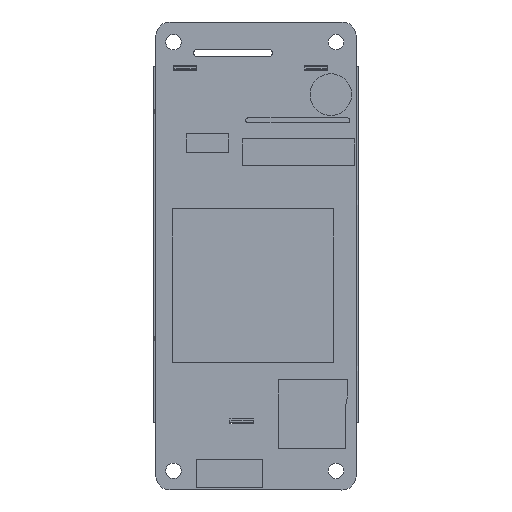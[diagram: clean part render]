
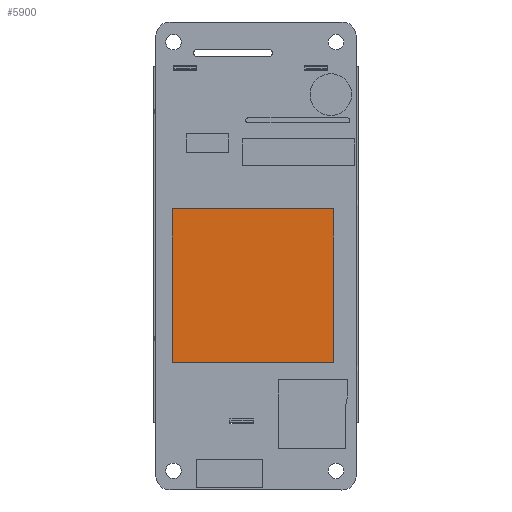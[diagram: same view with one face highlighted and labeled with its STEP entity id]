
A CAD part, front view. The second image highlights one B-rep face of the part: STEP entity #5900.
In plain terms, the highlighted planar face has unit normal (0, -1, 0).
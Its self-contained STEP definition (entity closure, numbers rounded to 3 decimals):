
#1778=DIRECTION('',(0.,0.,1.));
#1779=VECTOR('',#1778,32.766);
#1780=CARTESIAN_POINT('',(-17.849,-10.1,-25.061));
#1781=LINE('',#1780,#1779);
#1782=DIRECTION('',(1.,0.,0.));
#1783=VECTOR('',#1782,34.417);
#1784=CARTESIAN_POINT('',(-17.849,-10.1,7.705));
#1785=LINE('',#1784,#1783);
#1786=DIRECTION('',(0.,0.,-1.));
#1787=VECTOR('',#1786,32.766);
#1788=CARTESIAN_POINT('',(16.568,-10.1,7.705));
#1789=LINE('',#1788,#1787);
#1790=DIRECTION('',(-1.,0.,0.));
#1791=VECTOR('',#1790,34.417);
#1792=CARTESIAN_POINT('',(16.568,-10.1,-25.061));
#1793=LINE('',#1792,#1791);
#2308=CARTESIAN_POINT('',(-17.849,-10.1,7.705));
#2309=VERTEX_POINT('',#2308);
#2310=CARTESIAN_POINT('',(-17.849,-10.1,-25.061));
#2311=VERTEX_POINT('',#2310);
#2312=CARTESIAN_POINT('',(16.568,-10.1,7.705));
#2313=VERTEX_POINT('',#2312);
#2314=CARTESIAN_POINT('',(16.568,-10.1,-25.061));
#2315=VERTEX_POINT('',#2314);
#5889=CARTESIAN_POINT('',(-21.4,-10.1,44.601));
#5890=DIRECTION('',(0.,-1.,0.));
#5891=DIRECTION('',(0.,0.,-1.));
#5892=AXIS2_PLACEMENT_3D('',#5889,#5890,#5891);
#5893=PLANE('',#5892);
#5894=ORIENTED_EDGE('',*,*,#5813,.T.);
#5895=ORIENTED_EDGE('',*,*,#5835,.T.);
#5896=ORIENTED_EDGE('',*,*,#5856,.T.);
#5897=ORIENTED_EDGE('',*,*,#5876,.T.);
#5898=EDGE_LOOP('',(#5894,#5895,#5896,#5897));
#5899=FACE_OUTER_BOUND('',#5898,.F.);
#5813=EDGE_CURVE('',#2311,#2309,#1781,.T.);
#5835=EDGE_CURVE('',#2309,#2313,#1785,.T.);
#5856=EDGE_CURVE('',#2313,#2315,#1789,.T.);
#5876=EDGE_CURVE('',#2315,#2311,#1793,.T.);
#5900=ADVANCED_FACE('',(#5899),#5893,.T.);
